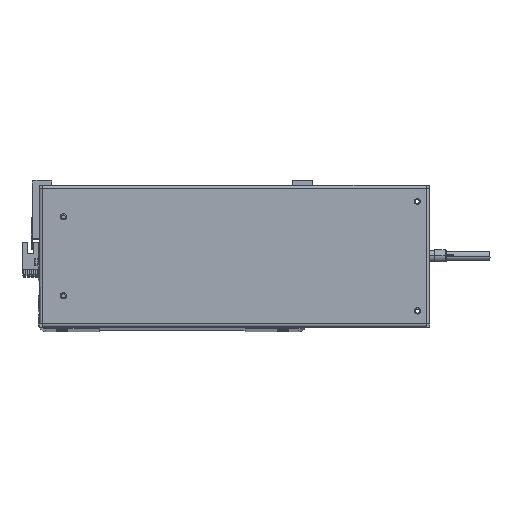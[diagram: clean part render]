
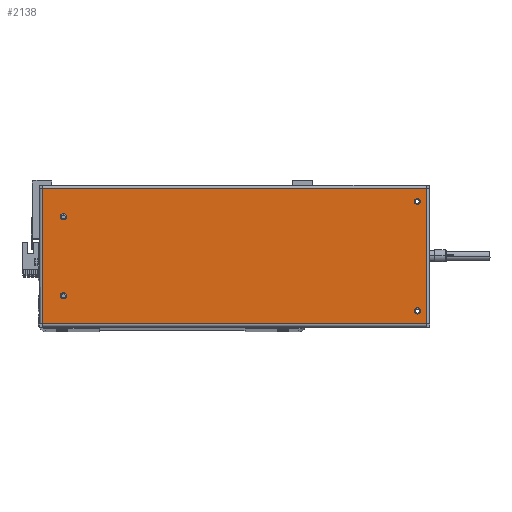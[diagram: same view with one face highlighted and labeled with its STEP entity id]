
A CAD part, top view. The second image highlights one B-rep face of the part: STEP entity #2138.
In plain terms, the highlighted planar face has unit normal (0, 0, 1).
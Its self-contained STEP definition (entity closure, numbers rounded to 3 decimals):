
#328 = LINE ( 'NONE', #34563, #1355 ) ;
#1299 = EDGE_CURVE ( 'NONE', #8705, #2867, #21413, .T. ) ;
#1355 = VECTOR ( 'NONE', #21445, 1000. ) ;
#1494 = AXIS2_PLACEMENT_3D ( 'NONE', #32106, #9654, #38434 ) ;
#1818 = CARTESIAN_POINT ( 'NONE',  ( -143., -32.5, 0. ) ) ;
#1851 = FACE_BOUND ( 'NONE', #14036, .T. ) ;
#1941 = VERTEX_POINT ( 'NONE', #6356 ) ;
#2045 = CARTESIAN_POINT ( 'NONE',  ( -143., 32.5, 0. ) ) ;
#2138 = ADVANCED_FACE ( 'NONE', ( #1851, #2868, #25818, #19407, #23855 ), #10974, .F. ) ;
#2390 = ORIENTED_EDGE ( 'NONE', *, *, #10566, .F. ) ;
#2665 = ORIENTED_EDGE ( 'NONE', *, *, #35727, .T. ) ;
#2820 = ORIENTED_EDGE ( 'NONE', *, *, #24219, .F. ) ;
#2838 = AXIS2_PLACEMENT_3D ( 'NONE', #35192, #19176, #16084 ) ;
#2867 = VERTEX_POINT ( 'NONE', #37079 ) ;
#2868 = FACE_BOUND ( 'NONE', #27400, .T. ) ;
#3038 = CARTESIAN_POINT ( 'NONE',  ( -138., 32.5, 0. ) ) ;
#3384 = CIRCLE ( 'NONE', #5596, 2.5 ) ;
#3463 = VERTEX_POINT ( 'NONE', #1818 ) ;
#3495 = DIRECTION ( 'NONE',  ( 0., 0., 1. ) ) ;
#3502 = EDGE_LOOP ( 'NONE', ( #36109, #29331 ) ) ;
#4459 = CARTESIAN_POINT ( 'NONE',  ( 153., 45., 0. ) ) ;
#5507 = ORIENTED_EDGE ( 'NONE', *, *, #32876, .F. ) ;
#5596 = AXIS2_PLACEMENT_3D ( 'NONE', #24988, #35053, #35191 ) ;
#6356 = CARTESIAN_POINT ( 'NONE',  ( -157.6, -55.6, 0. ) ) ;
#6412 = ORIENTED_EDGE ( 'NONE', *, *, #1299, .T. ) ;
#6748 = VERTEX_POINT ( 'NONE', #18627 ) ;
#7539 = LINE ( 'NONE', #9726, #13024 ) ;
#8548 = VECTOR ( 'NONE', #38457, 1000. ) ;
#8705 = VERTEX_POINT ( 'NONE', #24716 ) ;
#9550 = LINE ( 'NONE', #15974, #8548 ) ;
#9654 = DIRECTION ( 'NONE',  ( 0., 0., 1. ) ) ;
#9726 = CARTESIAN_POINT ( 'NONE',  ( -157.6, 55.6, 0. ) ) ;
#10566 = EDGE_CURVE ( 'NONE', #10996, #3463, #3384, .T. ) ;
#10700 = VERTEX_POINT ( 'NONE', #4459 ) ;
#10817 = VERTEX_POINT ( 'NONE', #17882 ) ;
#10822 = DIRECTION ( 'NONE',  ( 0., 0., -1. ) ) ;
#10875 = DIRECTION ( 'NONE',  ( 0., 0., 1. ) ) ;
#10974 = PLANE ( 'NONE',  #20353 ) ;
#10996 = VERTEX_POINT ( 'NONE', #21767 ) ;
#11415 = EDGE_CURVE ( 'NONE', #27104, #28698, #30721, .T. ) ;
#11631 = ORIENTED_EDGE ( 'NONE', *, *, #15031, .T. ) ;
#11649 = CIRCLE ( 'NONE', #35657, 2.5 ) ;
#12111 = VERTEX_POINT ( 'NONE', #37724 ) ;
#12116 = EDGE_CURVE ( 'NONE', #10700, #17720, #27661, .T. ) ;
#12224 = CARTESIAN_POINT ( 'NONE',  ( -140.5, 32.5, 0. ) ) ;
#13024 = VECTOR ( 'NONE', #32177, 1000. ) ;
#13789 = EDGE_CURVE ( 'NONE', #6748, #12111, #11649, .T. ) ;
#14036 = EDGE_LOOP ( 'NONE', ( #2390, #5507 ) ) ;
#15031 = EDGE_CURVE ( 'NONE', #1941, #10817, #9550, .T. ) ;
#15327 = CIRCLE ( 'NONE', #2838, 2.5 ) ;
#15974 = CARTESIAN_POINT ( 'NONE',  ( -157.7, -55.6, 0. ) ) ;
#16084 = DIRECTION ( 'NONE',  ( 1., 0., 0. ) ) ;
#17292 = CARTESIAN_POINT ( 'NONE',  ( -140.5, -32.5, 0. ) ) ;
#17390 = CARTESIAN_POINT ( 'NONE',  ( 157.7, 58.5, 0. ) ) ;
#17720 = VERTEX_POINT ( 'NONE', #32582 ) ;
#17882 = CARTESIAN_POINT ( 'NONE',  ( 157.6, -55.6, 0. ) ) ;
#17960 = VECTOR ( 'NONE', #20953, 1000. ) ;
#17977 = EDGE_LOOP ( 'NONE', ( #34933, #11631, #2665, #6412 ) ) ;
#18627 = CARTESIAN_POINT ( 'NONE',  ( 153., -45., 0. ) ) ;
#18762 = DIRECTION ( 'NONE',  ( 1., 0., 0. ) ) ;
#19176 = DIRECTION ( 'NONE',  ( 0., 0., 1. ) ) ;
#19407 = FACE_BOUND ( 'NONE', #34113, .T. ) ;
#20353 = AXIS2_PLACEMENT_3D ( 'NONE', #17390, #10822, #23635 ) ;
#20518 = CIRCLE ( 'NONE', #30430, 2.5 ) ;
#20953 = DIRECTION ( 'NONE',  ( -1., 0., 0. ) ) ;
#21413 = LINE ( 'NONE', #29850, #17960 ) ;
#21445 = DIRECTION ( 'NONE',  ( 0., 1., 0. ) ) ;
#21625 = ORIENTED_EDGE ( 'NONE', *, *, #30246, .F. ) ;
#21767 = CARTESIAN_POINT ( 'NONE',  ( -138., -32.5, 0. ) ) ;
#21855 = CARTESIAN_POINT ( 'NONE',  ( -140.5, 32.5, 0. ) ) ;
#22872 = AXIS2_PLACEMENT_3D ( 'NONE', #12224, #24851, #28306 ) ;
#23163 = EDGE_CURVE ( 'NONE', #2867, #1941, #7539, .T. ) ;
#23635 = DIRECTION ( 'NONE',  ( -1., 0., 0. ) ) ;
#23855 = FACE_OUTER_BOUND ( 'NONE', #17977, .T. ) ;
#24219 = EDGE_CURVE ( 'NONE', #28698, #27104, #35675, .T. ) ;
#24716 = CARTESIAN_POINT ( 'NONE',  ( 157.6, 55.6, 0. ) ) ;
#24851 = DIRECTION ( 'NONE',  ( 0., 0., 1. ) ) ;
#24988 = CARTESIAN_POINT ( 'NONE',  ( -140.5, -32.5, 0. ) ) ;
#25818 = FACE_BOUND ( 'NONE', #3502, .T. ) ;
#27104 = VERTEX_POINT ( 'NONE', #3038 ) ;
#27400 = EDGE_LOOP ( 'NONE', ( #35058, #2820 ) ) ;
#27661 = CIRCLE ( 'NONE', #37334, 2.5 ) ;
#28306 = DIRECTION ( 'NONE',  ( 1., 0., 0. ) ) ;
#28624 = DIRECTION ( 'NONE',  ( 1., 0., 0. ) ) ;
#28698 = VERTEX_POINT ( 'NONE', #2045 ) ;
#29331 = ORIENTED_EDGE ( 'NONE', *, *, #30207, .F. ) ;
#29850 = CARTESIAN_POINT ( 'NONE',  ( 157.7, 55.6, 0. ) ) ;
#30207 = EDGE_CURVE ( 'NONE', #12111, #6748, #34767, .T. ) ;
#30246 = EDGE_CURVE ( 'NONE', #17720, #10700, #15327, .T. ) ;
#30430 = AXIS2_PLACEMENT_3D ( 'NONE', #17292, #10875, #40163 ) ;
#30721 = CIRCLE ( 'NONE', #37476, 2.5 ) ;
#31732 = DIRECTION ( 'NONE',  ( 0., 0., 1. ) ) ;
#32106 = CARTESIAN_POINT ( 'NONE',  ( 150.5, -45., 0. ) ) ;
#32177 = DIRECTION ( 'NONE',  ( 0., -1., 0. ) ) ;
#32582 = CARTESIAN_POINT ( 'NONE',  ( 148., 45., 0. ) ) ;
#32599 = DIRECTION ( 'NONE',  ( 0., 0., 1. ) ) ;
#32876 = EDGE_CURVE ( 'NONE', #3463, #10996, #20518, .T. ) ;
#34113 = EDGE_LOOP ( 'NONE', ( #36148, #21625 ) ) ;
#34563 = CARTESIAN_POINT ( 'NONE',  ( 157.6, -55.6, 0. ) ) ;
#34767 = CIRCLE ( 'NONE', #1494, 2.5 ) ;
#34933 = ORIENTED_EDGE ( 'NONE', *, *, #23163, .T. ) ;
#35053 = DIRECTION ( 'NONE',  ( 0., 0., 1. ) ) ;
#35058 = ORIENTED_EDGE ( 'NONE', *, *, #11415, .F. ) ;
#35191 = DIRECTION ( 'NONE',  ( 1., 0., 0. ) ) ;
#35192 = CARTESIAN_POINT ( 'NONE',  ( 150.5, 45., 0. ) ) ;
#35657 = AXIS2_PLACEMENT_3D ( 'NONE', #35957, #32599, #40007 ) ;
#35675 = CIRCLE ( 'NONE', #22872, 2.5 ) ;
#35727 = EDGE_CURVE ( 'NONE', #10817, #8705, #328, .T. ) ;
#35957 = CARTESIAN_POINT ( 'NONE',  ( 150.5, -45., 0. ) ) ;
#36109 = ORIENTED_EDGE ( 'NONE', *, *, #13789, .F. ) ;
#36148 = ORIENTED_EDGE ( 'NONE', *, *, #12116, .F. ) ;
#37079 = CARTESIAN_POINT ( 'NONE',  ( -157.6, 55.6, 0. ) ) ;
#37334 = AXIS2_PLACEMENT_3D ( 'NONE', #38572, #3495, #18762 ) ;
#37476 = AXIS2_PLACEMENT_3D ( 'NONE', #21855, #31732, #28624 ) ;
#37724 = CARTESIAN_POINT ( 'NONE',  ( 148., -45., 0. ) ) ;
#38434 = DIRECTION ( 'NONE',  ( 1., 0., 0. ) ) ;
#38457 = DIRECTION ( 'NONE',  ( 1., 0., 0. ) ) ;
#38572 = CARTESIAN_POINT ( 'NONE',  ( 150.5, 45., 0. ) ) ;
#40007 = DIRECTION ( 'NONE',  ( 1., 0., 0. ) ) ;
#40163 = DIRECTION ( 'NONE',  ( 1., 0., 0. ) ) ;
